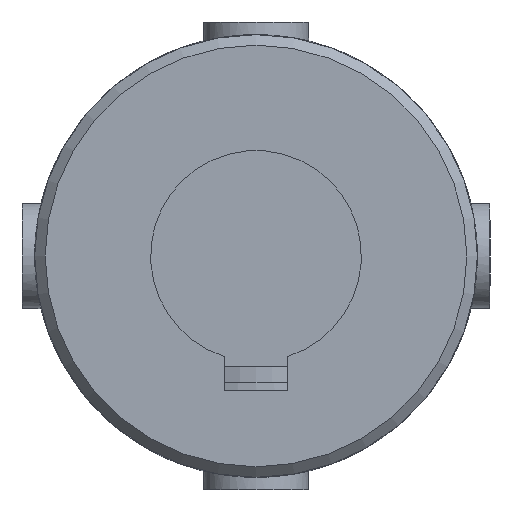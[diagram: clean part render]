
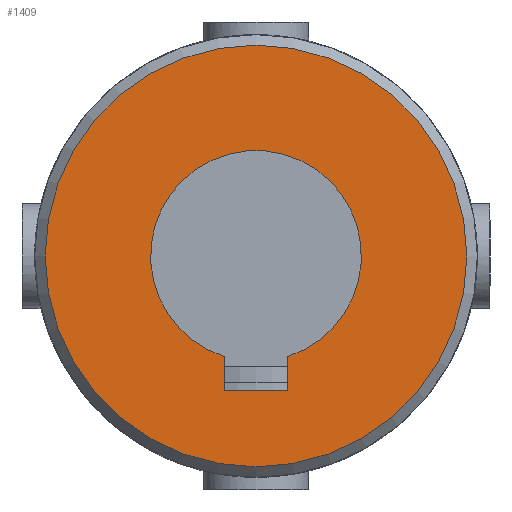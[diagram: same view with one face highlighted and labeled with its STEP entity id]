
A CAD part, front view. The second image highlights one B-rep face of the part: STEP entity #1409.
In plain terms, the highlighted planar face has unit normal (0, -1, 0).
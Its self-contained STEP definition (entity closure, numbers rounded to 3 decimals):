
#110=LINE('',#2705,#167);
#114=LINE('',#2725,#171);
#116=LINE('',#2737,#173);
#167=VECTOR('',#1827,3.261);
#171=VECTOR('',#1839,3.261);
#173=VECTOR('',#1845,6.);
#219=PLANE('',#1547);
#333=FACE_BOUND('',#514,.T.);
#400=FACE_OUTER_BOUND('',#513,.T.);
#513=EDGE_LOOP('',(#1233));
#514=EDGE_LOOP('',(#1234,#1235,#1236,#1237));
#578=CIRCLE('',#1536,10.);
#583=CIRCLE('',#1545,20.);
#693=VERTEX_POINT('',#2702);
#694=VERTEX_POINT('',#2704);
#697=VERTEX_POINT('',#2714);
#700=VERTEX_POINT('',#2724);
#708=VERTEX_POINT('',#2811);
#869=EDGE_CURVE('',#694,#693,#110,.T.);
#873=EDGE_CURVE('',#697,#694,#578,.T.);
#877=EDGE_CURVE('',#700,#697,#114,.T.);
#881=EDGE_CURVE('',#693,#700,#116,.T.);
#889=EDGE_CURVE('',#708,#708,#583,.T.);
#1233=ORIENTED_EDGE('',*,*,#889,.F.);
#1234=ORIENTED_EDGE('',*,*,#873,.T.);
#1235=ORIENTED_EDGE('',*,*,#869,.T.);
#1236=ORIENTED_EDGE('',*,*,#881,.T.);
#1237=ORIENTED_EDGE('',*,*,#877,.T.);
#1409=ADVANCED_FACE('',(#400,#333),#219,.F.);
#1536=AXIS2_PLACEMENT_3D('',#2715,#1833,#1834);
#1545=AXIS2_PLACEMENT_3D('',#2812,#1856,#1857);
#1547=AXIS2_PLACEMENT_3D('',#2988,#1864,#1865);
#1827=DIRECTION('',(0.,0.,-1.));
#1833=DIRECTION('center_axis',(0.,1.,0.));
#1834=DIRECTION('ref_axis',(0.3,0.,-0.954));
#1839=DIRECTION('',(0.,0.,1.));
#1845=DIRECTION('',(-1.,0.,0.));
#1856=DIRECTION('center_axis',(0.,1.,0.));
#1857=DIRECTION('ref_axis',(1.,0.,0.));
#1864=DIRECTION('center_axis',(0.,1.,0.));
#1865=DIRECTION('ref_axis',(0.,0.,1.));
#2702=CARTESIAN_POINT('',(3.,-51.,-12.8));
#2704=CARTESIAN_POINT('',(3.,-51.,-9.539));
#2705=CARTESIAN_POINT('',(3.,-51.,-4.77));
#2714=CARTESIAN_POINT('',(-3.,-51.,-9.539));
#2715=CARTESIAN_POINT('Origin',(0.,-51.,0.));
#2724=CARTESIAN_POINT('',(-3.,-51.,-12.8));
#2725=CARTESIAN_POINT('',(-3.,-51.,-6.4));
#2737=CARTESIAN_POINT('',(1.5,-51.,-12.8));
#2811=CARTESIAN_POINT('',(-20.,-51.,0.));
#2812=CARTESIAN_POINT('Origin',(0.,-51.,0.));
#2988=CARTESIAN_POINT('Origin',(0.,-51.,0.));
